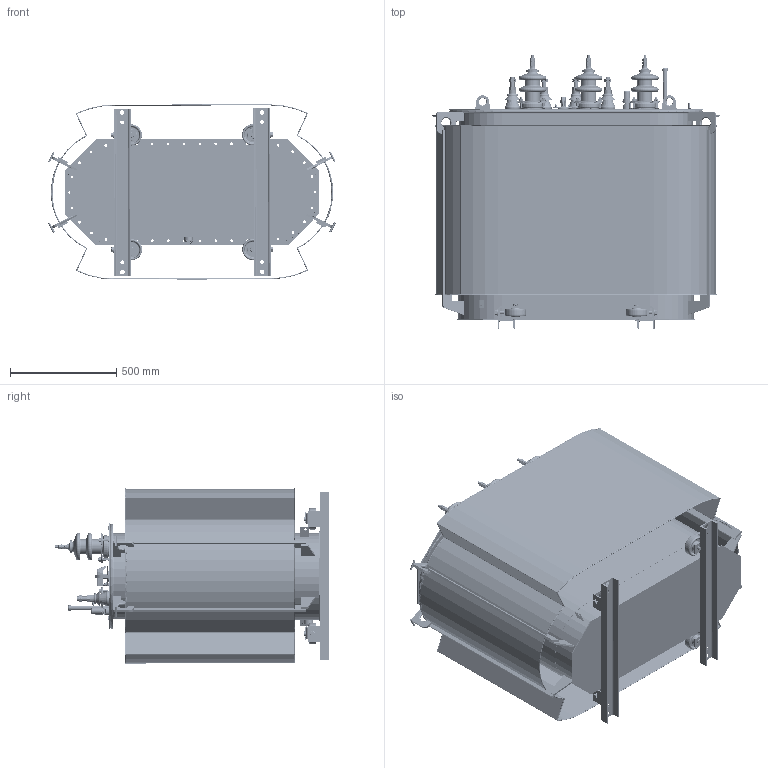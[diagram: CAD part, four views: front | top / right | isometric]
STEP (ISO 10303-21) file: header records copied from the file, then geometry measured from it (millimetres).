
FILE_DESCRIPTION(/* description */ (''),/* implementation_level */ '2;1');
FILE_NAME(/* name */ 'D:\SEARCHWORK\Готовые\\X2\0413043E0442043E0432044B0435\X0\ ТМГ\ТМГ11-400-10\ТМГ11-400-10.stp',/* time_stamp */ '2020-04-14T14:22:01+03:00',/* author */ ('55505'),/* organization */ (''),/* preprocessor_version */ 'ST-DEVELOPER v15.2',/* originating_system */ 'Autodesk Inventor 2014',/* authorisation */ '');
FILE_SCHEMA (('AUTOMOTIVE_DESIGN { 1 0 10303 214 3 1 1 }'));
Products named in the file (1): ТМГ11-400-10
Bounding box: 1356.52 x 1287.9 x 826.79 mm (x, y, z)
Volume: 21391951.1 mm3; surface area: 13428878.8 mm2
Topology: 27 solids, 44 shells, 5253 faces, 13412 edges, 8576 vertices
Faces by surface type: plane 2862, bspline 908, cylinder 892, cone 284, torus 270, sphere 37
Full cylindrical faces by diameter (mm): 0.5 x1, 1.5 x3, 1.6 x3, 3.1 x4, 3.2 x1, 3.8 x4, 3.96 x1, 4 x5, 4.134 x1, 4.5 x3, 4.95 x1, 5 x13, 5.3 x1, 5.459 x2, 5.5 x2, 6 x2, 6.2 x5, 6.5 x1, 7 x1, 7.1 x2, 7.5 x1, 7.92 x3, 8 x12, 8.4 x3, 8.746 x13, 9 x8, 10 x27, 10.5 x9, 10.8 x3, 11 x5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
Entity records: 169407 total; most frequent: CARTESIAN_POINT 47905, ORIENTED_EDGE 24624, DIRECTION 20779, EDGE_CURVE 12193, VERTEX_POINT 8381, EDGE_LOOP 7094, LINE 7035, VECTOR 7035
